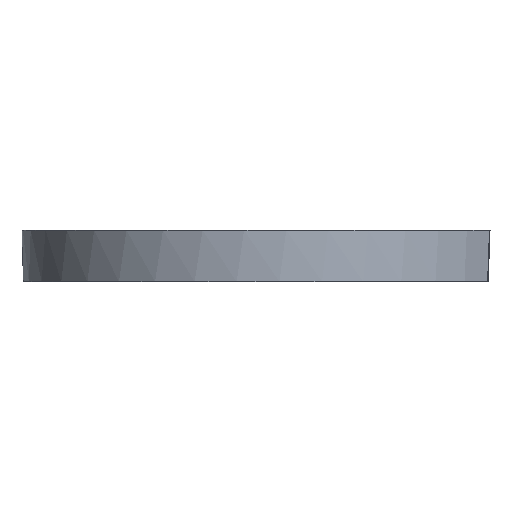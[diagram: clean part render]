
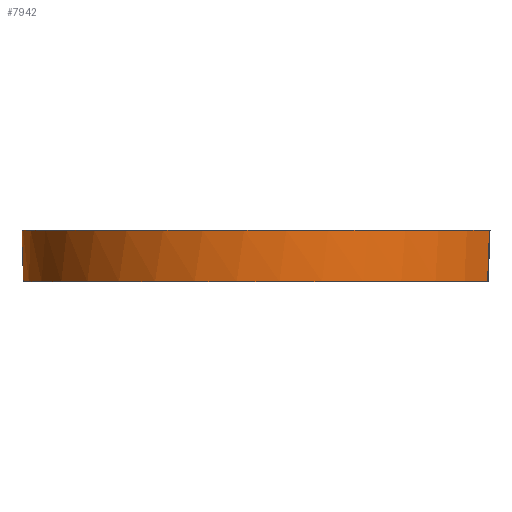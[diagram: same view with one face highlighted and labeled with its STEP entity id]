
A CAD part, left-side view. The second image highlights one B-rep face of the part: STEP entity #7942.
In plain terms, the highlighted conical face has half-angle 2 degrees and reference radius 25 mm.
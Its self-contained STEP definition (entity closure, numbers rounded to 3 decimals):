
#6923=CONICAL_SURFACE('',#25452,25.,2.);
#6953=FACE_OUTER_BOUND('',#9868,.T.);
#7942=ADVANCED_FACE('',(#6953),#6923,.T.);
#9710=CIRCLE('',#25417,25.);
#9729=CIRCLE('',#25450,24.958);
#9730=CIRCLE('',#25451,24.818);
#9868=EDGE_LOOP('',(#12568,#12569,#12570,#12571,#12572,#12573));
#10956=B_SPLINE_CURVE_WITH_KNOTS('',3,(#32018,#32019,#32020,#32021,#32022,
#32023,#32024),.UNSPECIFIED.,.F.,.F.,(4,3,4),(0.,0.833,1.),
 .UNSPECIFIED.);
#10957=B_SPLINE_CURVE_WITH_KNOTS('',3,(#32028,#32029,#32030,#32031,#32032,
#32033,#32034),.UNSPECIFIED.,.F.,.F.,(4,3,4),(0.,0.487,1.),
 .UNSPECIFIED.);
#10958=B_SPLINE_CURVE_WITH_KNOTS('',3,(#32038,#32039,#32040,#32041,#32042,
#32043,#32044),.UNSPECIFIED.,.F.,.F.,(4,3,4),(0.,0.192,1.),
 .UNSPECIFIED.);
#12568=ORIENTED_EDGE('',*,*,#19806,.F.);
#12569=ORIENTED_EDGE('',*,*,#19964,.T.);
#12570=ORIENTED_EDGE('',*,*,#19965,.F.);
#12571=ORIENTED_EDGE('',*,*,#19966,.T.);
#12572=ORIENTED_EDGE('',*,*,#19967,.T.);
#12573=ORIENTED_EDGE('',*,*,#19968,.T.);
#17953=VERTEX_POINT('',#31172);
#17954=VERTEX_POINT('',#31174);
#18110=VERTEX_POINT('',#32025);
#18111=VERTEX_POINT('',#32027);
#18112=VERTEX_POINT('',#32035);
#18113=VERTEX_POINT('',#32037);
#19806=EDGE_CURVE('',#17953,#17954,#9710,.T.);
#19964=EDGE_CURVE('',#17953,#18110,#10956,.T.);
#19965=EDGE_CURVE('',#18111,#18110,#9729,.T.);
#19966=EDGE_CURVE('',#18111,#18112,#10957,.T.);
#19967=EDGE_CURVE('',#18112,#18113,#9730,.T.);
#19968=EDGE_CURVE('',#18113,#17954,#10958,.T.);
#25417=AXIS2_PLACEMENT_3D('',#31173,#26874,#26875);
#25450=AXIS2_PLACEMENT_3D('',#32026,#26973,#26974);
#25451=AXIS2_PLACEMENT_3D('',#32036,#26975,#26976);
#25452=AXIS2_PLACEMENT_3D('',#32045,#26977,#26978);
#26874=DIRECTION('',(0.,0.,1.));
#26875=DIRECTION('',(1.,0.,0.));
#26973=DIRECTION('',(0.,0.,-1.));
#26974=DIRECTION('',(1.,0.,0.));
#26975=DIRECTION('',(0.,0.,1.));
#26976=DIRECTION('',(1.,0.,0.));
#26977=DIRECTION('',(0.,0.,1.));
#26978=DIRECTION('',(1.,0.,0.));
#31172=CARTESIAN_POINT('',(12.352,-21.735,4.4));
#31173=CARTESIAN_POINT('',(0.,0.,4.4));
#31174=CARTESIAN_POINT('',(-11.544,-22.175,4.4));
#32018=CARTESIAN_POINT('',(12.352,-21.735,4.4));
#32019=CARTESIAN_POINT('',(12.349,-21.724,4.067));
#32020=CARTESIAN_POINT('',(12.346,-21.712,3.734));
#32021=CARTESIAN_POINT('',(12.343,-21.7,3.401));
#32022=CARTESIAN_POINT('',(12.342,-21.698,3.334));
#32023=CARTESIAN_POINT('',(12.342,-21.696,3.267));
#32024=CARTESIAN_POINT('',(12.341,-21.693,3.2));
#32025=CARTESIAN_POINT('',(12.341,-21.693,3.2));
#32026=CARTESIAN_POINT('',(0.,0.,3.2));
#32027=CARTESIAN_POINT('',(13.053,-21.273,3.2));
#32028=CARTESIAN_POINT('',(13.053,-21.273,3.2));
#32029=CARTESIAN_POINT('',(13.076,-21.232,2.551));
#32030=CARTESIAN_POINT('',(13.1,-21.191,1.902));
#32031=CARTESIAN_POINT('',(13.123,-21.15,1.253));
#32032=CARTESIAN_POINT('',(13.148,-21.106,0.569));
#32033=CARTESIAN_POINT('',(13.172,-21.063,-0.116));
#32034=CARTESIAN_POINT('',(13.197,-21.019,-0.8));
#32035=CARTESIAN_POINT('',(13.197,-21.019,-0.8));
#32036=CARTESIAN_POINT('',(0.,0.,-0.8));
#32037=CARTESIAN_POINT('',(-11.5,-21.993,-0.8));
#32038=CARTESIAN_POINT('',(-11.5,-21.993,-0.8));
#32039=CARTESIAN_POINT('',(-11.503,-22.005,-0.467));
#32040=CARTESIAN_POINT('',(-11.506,-22.016,-0.134));
#32041=CARTESIAN_POINT('',(-11.509,-22.028,0.199));
#32042=CARTESIAN_POINT('',(-11.52,-22.077,1.6));
#32043=CARTESIAN_POINT('',(-11.532,-22.126,3.));
#32044=CARTESIAN_POINT('',(-11.544,-22.175,4.4));
#32045=CARTESIAN_POINT('',(0.,0.,4.4));
